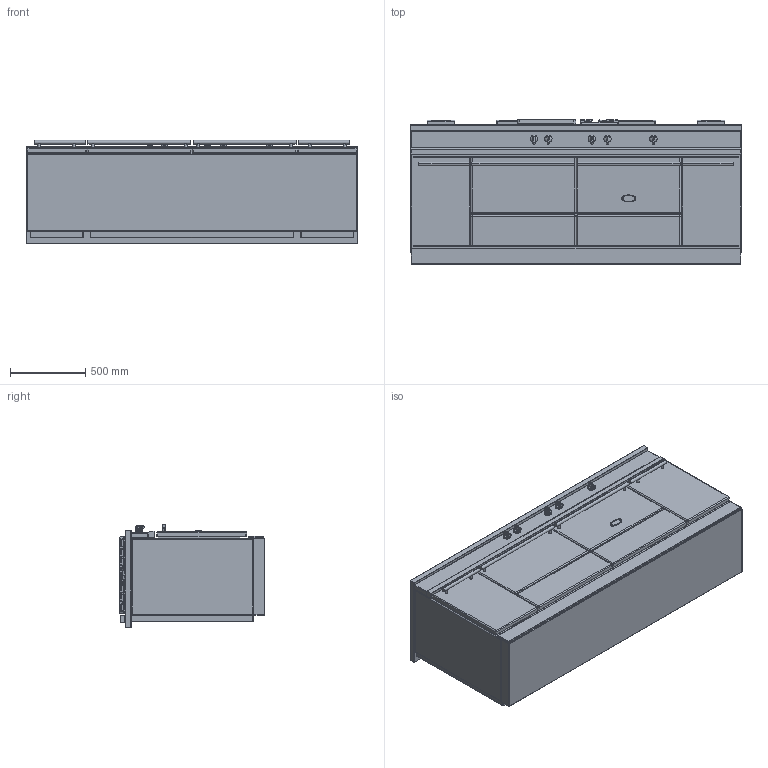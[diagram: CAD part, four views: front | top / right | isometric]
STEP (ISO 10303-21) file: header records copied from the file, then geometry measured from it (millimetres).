
FILE_DESCRIPTION((''),'2;1');
FILE_NAME('LMCF2232_ASM','2022-04-13T11:57:10',('stagiaire'),(''),'CREO PARAMETRIC BY PTC INC, 2021424','CREO PARAMETRIC BY PTC INC, 2021424','');
FILE_SCHEMA(('AP203_CONFIGURATION_CONTROLLED_3D_DESIGN_OF_MECHANICAL_PARTS_AND_ASSEMBLIES_MIM_LF { 1 0 10303 403 2 1 2 }'));
Products named in the file (21): BASE_EXPORT_SULLY_LMG2232; 65049009; 65650001; 65064012; 19150009; 88064012_ASM; BASE_EXPORT_SULLY_LMG2232_ASM; TABLE_SULLY_2200_3_FEUX; 5KW; 1_5KW; 3KW; 6537023; 65149005; 90000565_ASM; 65062008; 65062012; 90000549_ASM; CHEMINEE_2020_LG371_EXPORT_STEP; CHEMINEE_2020_LG182_EXPORT_STEP; TABLE_SULLY_2200_TRADITION_ASM; LMCF2232_ASM
Assembly tree (33 placements, depth 4):
  LMCF2232_ASM
    BASE_EXPORT_SULLY_LMG2232_ASM
      BASE_EXPORT_SULLY_LMG2232
      65049009
      65650001
      88064012_ASM  x5
        65064012
        19150009
    TABLE_SULLY_2200_TRADITION_ASM
      TABLE_SULLY_2200_3_FEUX
      5KW
      1_5KW
      3KW
      90000565_ASM
        6537023
        65149005  x4
      90000549_ASM
        65062008
        65062012
        65149005  x4
      CHEMINEE_2020_LG371_EXPORT_STEP  x2
      CHEMINEE_2020_LG182_EXPORT_STEP  x2
Bounding box: 2205 x 967 x 688.5 mm (x, y, z)
Volume: 1187043503.6 mm3; surface area: 16680738.3 mm2
Topology: 36 solids, 36 shells, 6198 faces, 17042 edges, 10808 vertices
Faces by surface type: plane 2791, cylinder 1921, bspline 769, sphere 338, torus 201, cone 156, extrusion 22
Entity records: 209403 total; most frequent: CARTESIAN_POINT 59384, ORIENTED_EDGE 24430, DIRECTION 22650, EDGE_CURVE 12215, PRESENTATION_STYLE_ASSIGNMENT 8972, STYLED_ITEM 8972, CURVE_STYLE 8733, VECTOR 8452
